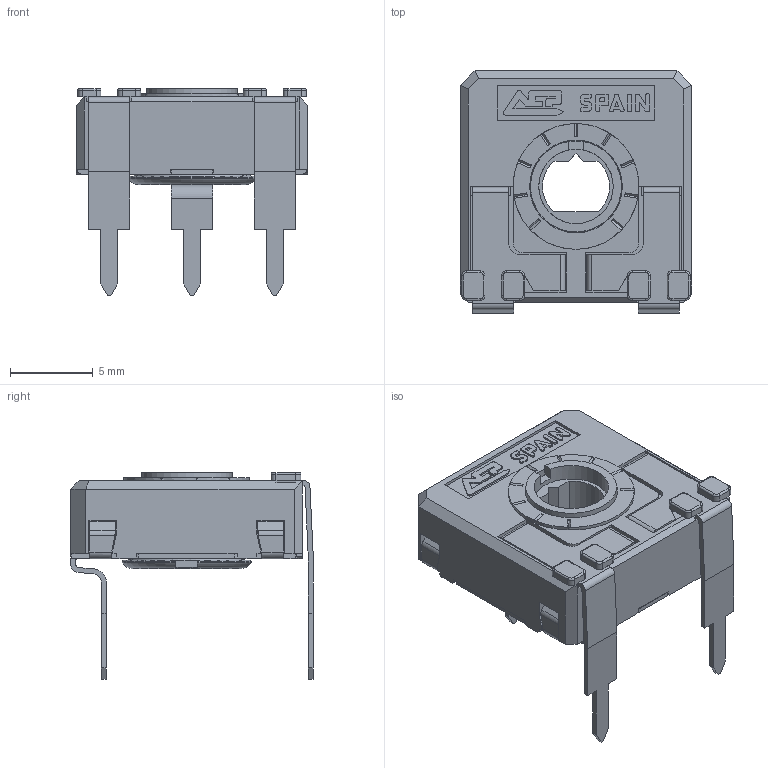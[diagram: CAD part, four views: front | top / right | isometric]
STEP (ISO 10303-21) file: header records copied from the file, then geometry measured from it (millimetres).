
FILE_DESCRIPTION(/* description */ (''),/* implementation_level */ '2;1');
FILE_NAME(/* name */ '\\SERVERACP\intercambio\Ignacio Santa Cecilia\Nueva WEB 2025\CA14KVA12,5.stp',/* time_stamp */ '2025-06-06T10:45:19+02:00',/* author */ ('CEM'),/* organization */ (''),/* preprocessor_version */ 'ST-DEVELOPER v17',/* originating_system */ 'Autodesk Inventor 2018',/* authorisation */ '');
FILE_SCHEMA (('AUTOMOTIVE_DESIGN { 1 0 10303 214 3 1 1 }'));
Length unit declared in the file: millimetre
Products named in the file (1): CARCASA CA14 PGA
Bounding box: 14 x 14.65 x 12.5 mm (x, y, z)
Volume: 539.5 mm3; surface area: 1520.1 mm2
Topology: 1 solids, 1 shells, 685 faces, 1941 edges, 1252 vertices
Faces by surface type: plane 505, cylinder 143, torus 23, bspline 8, cone 6
Full cylindrical faces by diameter (mm): 4.5 x1, 5.5 x1, 5.6 x1, 5.752 x1, 6.8 x1, 7.6 x1
Entity records: 22438 total; most frequent: CARTESIAN_POINT 4176, ORIENTED_EDGE 3882, DIRECTION 3624, EDGE_CURVE 1941, LINE 1524, VECTOR 1524, VERTEX_POINT 1252, AXIS2_PLACEMENT_3D 1050
